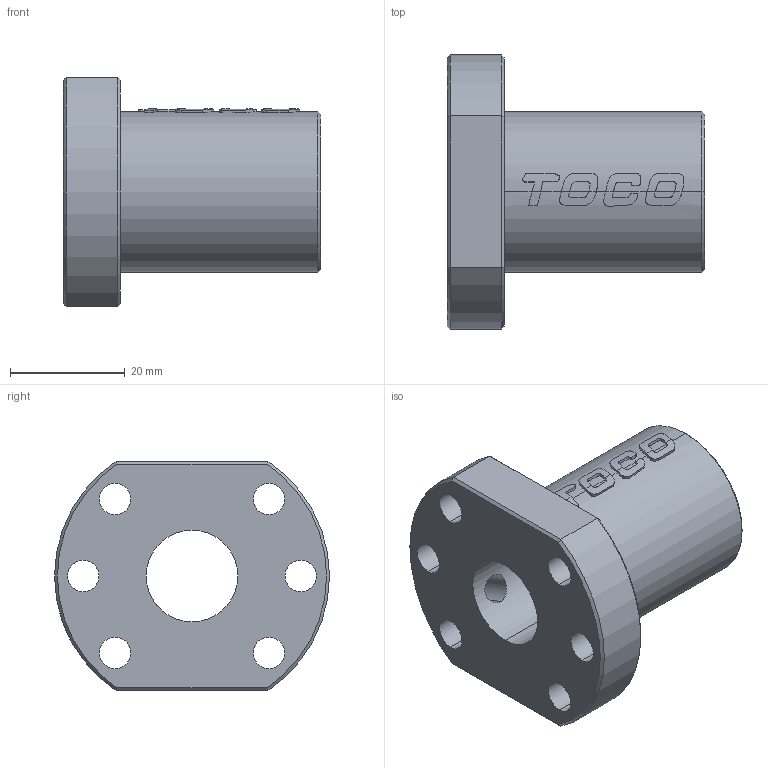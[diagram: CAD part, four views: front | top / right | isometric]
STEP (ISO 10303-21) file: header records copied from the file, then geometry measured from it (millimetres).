
FILE_DESCRIPTION (( 'STEP AP214' ), '1' );
FILE_NAME ('7.3103 STNUR1605T4D.STEP', '2026-03-03T12:37:22', ( '' ), ( '' ), 'SwSTEP 2.0', 'SolidWorks 2025', '' );
FILE_SCHEMA (( 'AUTOMOTIVE_DESIGN' ));
Length unit declared in the file: millimetre
Products named in the file (1): 7.3103 STNUR1605T4D
Bounding box: 45 x 48 x 40 mm (x, y, z)
Volume: 27384.4 mm3; surface area: 10655.4 mm2
Topology: 1 solids, 1 shells, 87 faces, 242 edges, 158 vertices
Faces by surface type: cylinder 32, bspline 26, plane 23, cone 6
Entity records: 12314 total; most frequent: CARTESIAN_POINT 10307, ORIENTED_EDGE 484, DIRECTION 288, EDGE_CURVE 242, VERTEX_POINT 158, B_SPLINE_CURVE_WITH_KNOTS 120, AXIS2_PLACEMENT_3D 104, EDGE_LOOP 104
